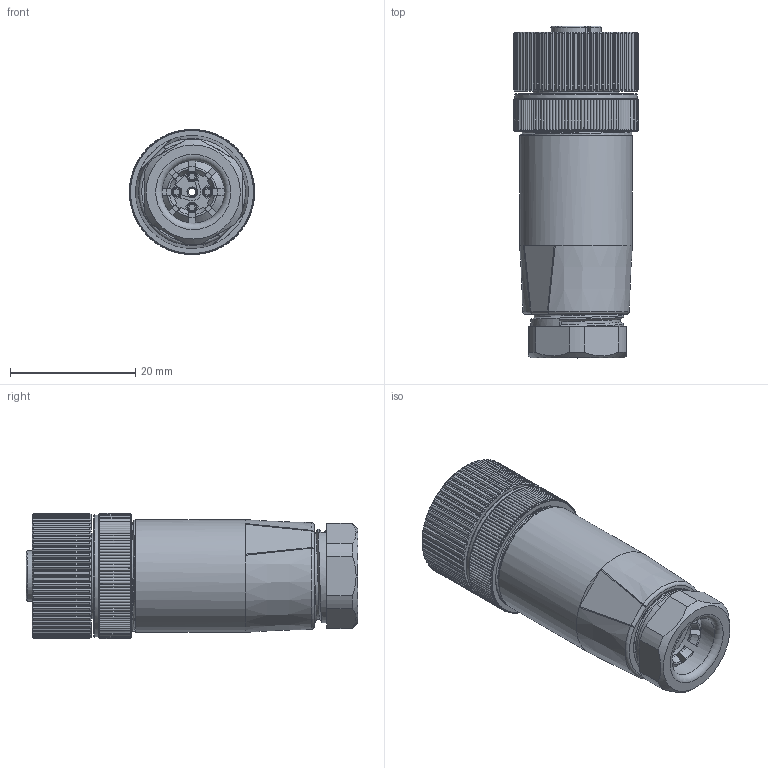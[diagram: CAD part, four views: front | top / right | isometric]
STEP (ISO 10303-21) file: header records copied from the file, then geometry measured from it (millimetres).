
FILE_DESCRIPTION(/* description */ (''),/* implementation_level */ '2;1');
FILE_NAME(/* name */ 'M12D-4FS-PG9.stp',/* time_stamp */ '2024-08-14T13:58:39+08:00',/* author */ (''),/* organization */ (''),/* preprocessor_version */ 'ST-DEVELOPER v16.7',/* originating_system */ 'SIEMENS PLM Software NX 12.0',/* authorisation */ '');
FILE_SCHEMA (('AP203_CONFIGURATION_CONTROLLED_3D_DESIGN_OF_MECHANICAL_PARTS_AND_ASSEMBLIES_MIM_LF { 1 0 10303 403 2 1 2}'));
Products named in the file (1): lyj280CC4F66wk5
Bounding box: 20 x 52.98 x 20 mm (x, y, z)
Volume: 8367.8 mm3; surface area: 10623 mm2
Topology: 1 solids, 9 shells, 1244 faces, 2988 edges, 1816 vertices
Faces by surface type: cone 414, cylinder 385, plane 372, extrusion 25, torus 24, bspline 20, sphere 4
Full cylindrical faces by diameter (mm): 1 x12, 1.2 x5, 1.3 x8, 1.4 x4, 1.6 x17, 2 x4, 8 x1, 8.3 x1, 9.2 x1, 10 x2, 10.2 x1, 10.7 x1, 11.1 x7, 11.3 x1, 13.6 x1, 13.8 x1, 14.3 x1, 14.4 x1, 14.7 x1, 15.8 x1, 16.7 x1, 18 x1, 19.6 x1
Entity records: 51517 total; most frequent: CARTESIAN_POINT 24138, ORIENTED_EDGE 5650, DIRECTION 5581, EDGE_CURVE 2825, AXIS2_PLACEMENT_3D 2290, VERTEX_POINT 1756, EDGE_LOOP 1407, ADVANCED_FACE 1236
